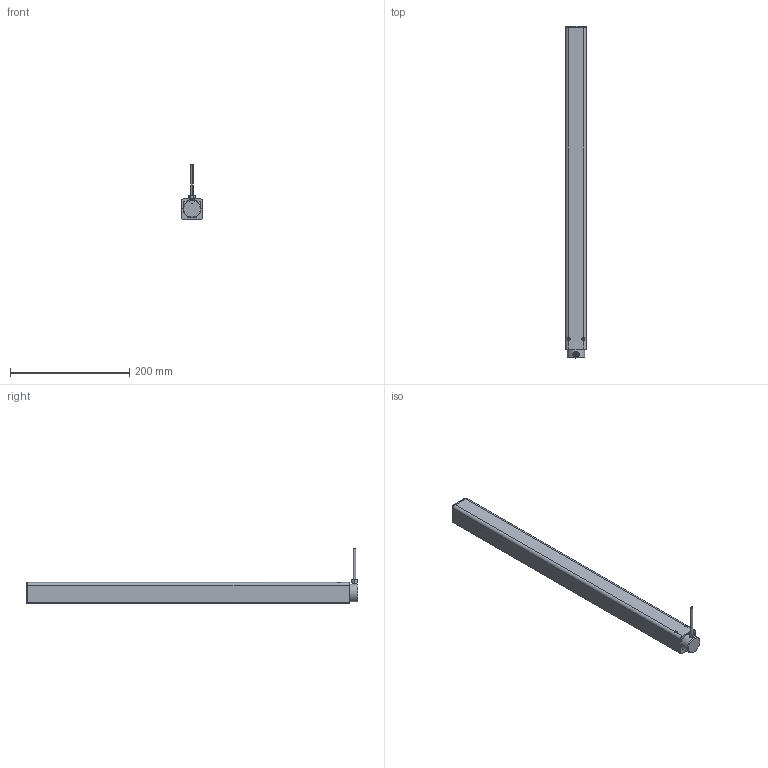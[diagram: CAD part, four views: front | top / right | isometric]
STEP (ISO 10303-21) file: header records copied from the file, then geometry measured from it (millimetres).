
FILE_DESCRIPTION(/* description */ ('Unknown'),/* implementation_level */ '2;1');
FILE_NAME(/* name */ '106.00184 Lineareinheit LA 1440 R_eingefahren',/* time_stamp */ '2017-10-05T16:27:18+02:00',/* author */ ('Unknown'),/* organization */ ('Unknown'),/* preprocessor_version */ 'ST-DEVELOPER v16.7',/* originating_system */ 'DEX',/* authorisation */ $);
FILE_SCHEMA (('AUTOMOTIVE_DESIGN {1 0 10303 214 3 1 1}'));
Products named in the file (11): 106.00184; 119.00004; 142.00014; 142.00021; 125.00021; 115.00001; 125.00043; 122.00018; 125.00051; 123.00004; 113.00002_70mm
Assembly tree (11 placements, depth 2):
  106.00184
    119.00004
    142.00014  x2
    142.00021
    125.00021
    115.00001
    125.00043
    122.00018
    125.00051
    123.00004
    113.00002_70mm
Bounding box: 35 x 557 x 91.75 mm (x, y, z)
Volume: 385879.4 mm3; surface area: 249081.5 mm2
Topology: 10 solids, 10 shells, 810 faces, 1896 edges, 1132 vertices
Faces by surface type: cylinder 280, bspline 224, plane 214, cone 50, torus 29, sphere 13
Full cylindrical faces by diameter (mm): 2.2 x1, 3.5 x2, 4 x7, 4.1 x1, 4.134 x4, 4.2 x1, 6.647 x1, 6.917 x2, 8 x2, 8.376 x1, 9 x1, 13.9 x2, 17.3 x1, 19 x2, 20.8 x3, 21 x1, 25 x1, 29.5 x2, 30.63 x1
Entity records: 76151 total; most frequent: CARTESIAN_POINT 59516, ORIENTED_EDGE 3508, DIRECTION 2671, EDGE_CURVE 1754, VERTEX_POINT 1077, AXIS2_PLACEMENT_3D 1047, FACE_BOUND 921, EDGE_LOOP 919
